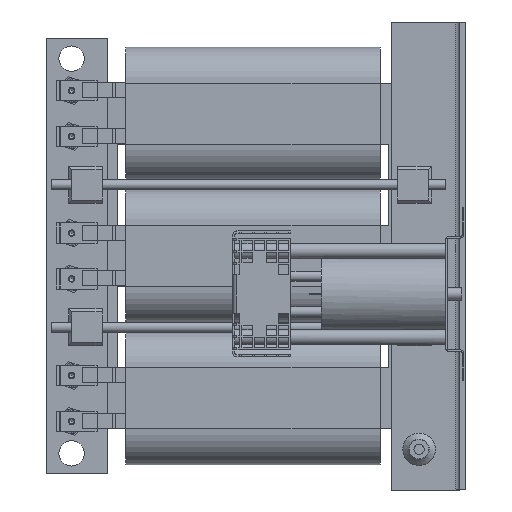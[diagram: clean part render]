
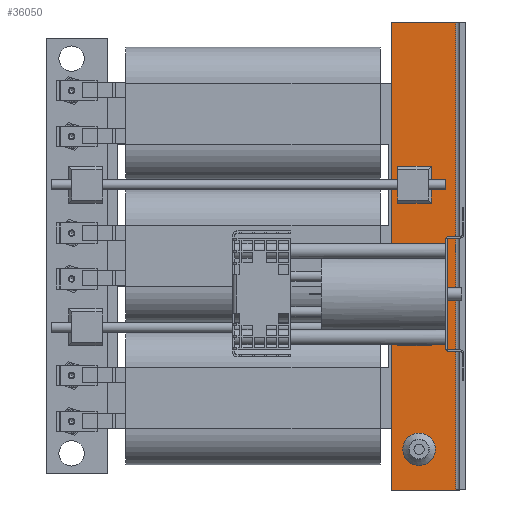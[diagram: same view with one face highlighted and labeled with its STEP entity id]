
A CAD part, front view. The second image highlights one B-rep face of the part: STEP entity #36050.
In plain terms, the highlighted planar face has unit normal (0, -1, 0).
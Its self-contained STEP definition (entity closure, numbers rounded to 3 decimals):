
#326=LINE('',#51158,#4301);
#327=LINE('',#51160,#4302);
#328=LINE('',#51162,#4303);
#329=LINE('',#51163,#4304);
#330=LINE('',#51166,#4305);
#331=LINE('',#51168,#4306);
#332=LINE('',#51170,#4307);
#333=LINE('',#51171,#4308);
#334=LINE('',#51176,#4309);
#335=LINE('',#51178,#4310);
#336=LINE('',#51180,#4311);
#337=LINE('',#51181,#4312);
#4301=VECTOR('',#41368,460.);
#4302=VECTOR('',#41369,63.);
#4303=VECTOR('',#41370,460.);
#4304=VECTOR('',#41371,63.);
#4305=VECTOR('',#41372,3.);
#4306=VECTOR('',#41373,33.);
#4307=VECTOR('',#41374,36.);
#4308=VECTOR('',#41375,33.);
#4309=VECTOR('',#41378,3.);
#4310=VECTOR('',#41379,33.);
#4311=VECTOR('',#41380,36.);
#4312=VECTOR('',#41381,33.);
#8116=PLANE('',#37941);
#9327=FACE_BOUND('',#11820,.T.);
#9328=FACE_BOUND('',#11821,.T.);
#9329=FACE_BOUND('',#11822,.T.);
#9960=FACE_OUTER_BOUND('',#11819,.T.);
#11819=EDGE_LOOP('',(#24125,#24126,#24127,#24128));
#11820=EDGE_LOOP('',(#24129,#24130,#24131,#24132));
#11821=EDGE_LOOP('',(#24133));
#11822=EDGE_LOOP('',(#24134,#24135,#24136,#24137));
#14014=CIRCLE('',#37942,16.);
#15327=VERTEX_POINT('',#51156);
#15328=VERTEX_POINT('',#51157);
#15329=VERTEX_POINT('',#51159);
#15330=VERTEX_POINT('',#51161);
#15331=VERTEX_POINT('',#51164);
#15332=VERTEX_POINT('',#51165);
#15333=VERTEX_POINT('',#51167);
#15334=VERTEX_POINT('',#51169);
#15335=VERTEX_POINT('',#51172);
#15336=VERTEX_POINT('',#51174);
#15337=VERTEX_POINT('',#51175);
#15338=VERTEX_POINT('',#51177);
#15339=VERTEX_POINT('',#51179);
#18797=EDGE_CURVE('',#15327,#15328,#326,.T.);
#18798=EDGE_CURVE('',#15327,#15329,#327,.T.);
#18799=EDGE_CURVE('',#15329,#15330,#328,.T.);
#18800=EDGE_CURVE('',#15330,#15328,#329,.T.);
#18801=EDGE_CURVE('',#15331,#15332,#330,.T.);
#18802=EDGE_CURVE('',#15333,#15332,#331,.T.);
#18803=EDGE_CURVE('',#15334,#15333,#332,.T.);
#18804=EDGE_CURVE('',#15331,#15334,#333,.T.);
#18805=EDGE_CURVE('',#15335,#15335,#14014,.T.);
#18806=EDGE_CURVE('',#15336,#15337,#334,.T.);
#18807=EDGE_CURVE('',#15338,#15337,#335,.T.);
#18808=EDGE_CURVE('',#15339,#15338,#336,.T.);
#18809=EDGE_CURVE('',#15336,#15339,#337,.T.);
#24125=ORIENTED_EDGE('',*,*,#18797,.F.);
#24126=ORIENTED_EDGE('',*,*,#18798,.T.);
#24127=ORIENTED_EDGE('',*,*,#18799,.T.);
#24128=ORIENTED_EDGE('',*,*,#18800,.T.);
#24129=ORIENTED_EDGE('',*,*,#18801,.T.);
#24130=ORIENTED_EDGE('',*,*,#18802,.F.);
#24131=ORIENTED_EDGE('',*,*,#18803,.F.);
#24132=ORIENTED_EDGE('',*,*,#18804,.F.);
#24133=ORIENTED_EDGE('',*,*,#18805,.T.);
#24134=ORIENTED_EDGE('',*,*,#18806,.T.);
#24135=ORIENTED_EDGE('',*,*,#18807,.F.);
#24136=ORIENTED_EDGE('',*,*,#18808,.F.);
#24137=ORIENTED_EDGE('',*,*,#18809,.F.);
#36050=ADVANCED_FACE('',(#9960,#9327,#9328,#9329),#8116,.F.);
#37941=AXIS2_PLACEMENT_3D('',#51155,#41366,#41367);
#37942=AXIS2_PLACEMENT_3D('',#51173,#41376,#41377);
#41366=DIRECTION('center_axis',(0.,1.,0.));
#41367=DIRECTION('ref_axis',(0.209,0.,0.978));
#41368=DIRECTION('',(0.,0.,-1.));
#41369=DIRECTION('',(-1.,0.,0.));
#41370=DIRECTION('',(0.,0.,-1.));
#41371=DIRECTION('',(1.,0.,0.));
#41372=DIRECTION('',(0.,0.,1.));
#41373=DIRECTION('',(-1.,0.,0.));
#41374=DIRECTION('',(0.,0.,1.));
#41375=DIRECTION('',(1.,0.,0.));
#41376=DIRECTION('center_axis',(0.,1.,0.));
#41377=DIRECTION('ref_axis',(1.,0.,0.));
#41378=DIRECTION('',(0.,0.,1.));
#41379=DIRECTION('',(-1.,0.,0.));
#41380=DIRECTION('',(0.,0.,1.));
#41381=DIRECTION('',(1.,0.,0.));
#51155=CARTESIAN_POINT('Origin',(166.389,-210.646,245.849));
#51156=CARTESIAN_POINT('',(195.889,-210.646,475.849));
#51157=CARTESIAN_POINT('',(195.889,-210.646,15.849));
#51158=CARTESIAN_POINT('',(195.889,-210.646,475.849));
#51159=CARTESIAN_POINT('',(132.889,-210.646,475.849));
#51160=CARTESIAN_POINT('',(195.889,-210.646,475.849));
#51161=CARTESIAN_POINT('',(132.889,-210.646,15.849));
#51162=CARTESIAN_POINT('',(132.889,-210.646,475.849));
#51163=CARTESIAN_POINT('',(132.889,-210.646,15.849));
#51164=CARTESIAN_POINT('',(138.889,-210.646,297.849));
#51165=CARTESIAN_POINT('',(138.889,-210.646,333.849));
#51166=CARTESIAN_POINT('',(138.889,-210.646,297.849));
#51167=CARTESIAN_POINT('',(171.889,-210.646,333.849));
#51168=CARTESIAN_POINT('',(171.889,-210.646,333.849));
#51169=CARTESIAN_POINT('',(171.889,-210.646,297.849));
#51170=CARTESIAN_POINT('',(171.889,-210.646,297.849));
#51171=CARTESIAN_POINT('',(138.889,-210.646,297.849));
#51172=CARTESIAN_POINT('',(143.889,-210.646,55.849));
#51173=CARTESIAN_POINT('Origin',(159.889,-210.646,55.849));
#51174=CARTESIAN_POINT('',(138.889,-210.646,157.849));
#51175=CARTESIAN_POINT('',(138.889,-210.646,193.849));
#51176=CARTESIAN_POINT('',(138.889,-210.646,190.849));
#51177=CARTESIAN_POINT('',(171.889,-210.646,193.849));
#51178=CARTESIAN_POINT('',(171.889,-210.646,193.849));
#51179=CARTESIAN_POINT('',(171.889,-210.646,157.849));
#51180=CARTESIAN_POINT('',(171.889,-210.646,157.849));
#51181=CARTESIAN_POINT('',(138.889,-210.646,157.849));
